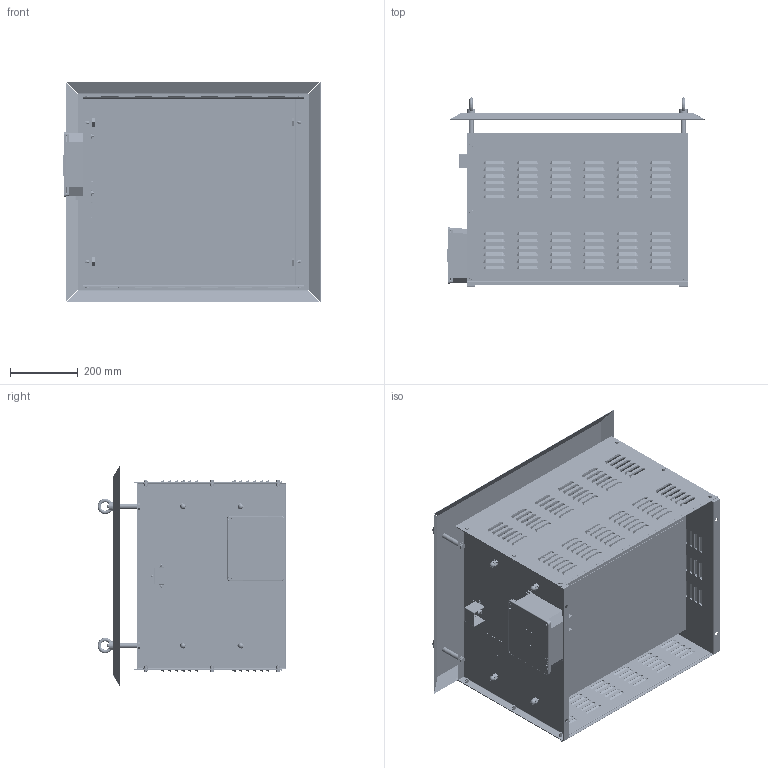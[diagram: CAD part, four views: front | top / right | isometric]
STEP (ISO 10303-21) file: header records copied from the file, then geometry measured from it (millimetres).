
FILE_DESCRIPTION(/* description */ (''),/* implementation_level */ '2;1');
FILE_NAME(/* name */ 'C:\_Vault\Dati\CATALOGO\RX\RX Catalogue New\RX 65 UL\RX 65s RMS 16 (A)-UL_Armatura_Esterna.stp',/* time_stamp */ '2022-03-23T09:22:31+01:00',/* author */ ('claudio'),/* organization */ ('Fairfild Srl'),/* preprocessor_version */ 'ST-DEVELOPER v18.1',/* originating_system */ 'Autodesk Inventor 2022',/* authorisation */ '');
FILE_SCHEMA (('AUTOMOTIVE_DESIGN { 1 0 10303 214 3 1 1 }'));
Products named in the file (1): RX 65s RMS 16 (A)-UL_Armatura_Esterna
Bounding box: 757.04 x 556.41 x 650 mm (x, y, z)
Volume: 52961388.3 mm3; surface area: 5056672.5 mm2
Topology: 1 solids, 53 shells, 12532 faces, 33017 edges, 20643 vertices
Faces by surface type: plane 8216, bspline 1893, cylinder 1872, cone 502, sphere 31, torus 18
Full cylindrical faces by diameter (mm): 1.9 x2, 3.2 x2, 3.242 x1, 4 x2, 4.2 x6, 4.3 x1, 4.5 x3, 5 x8, 5.3 x4, 5.5 x4, 6 x36, 6.4 x24, 8.2 x1, 8.376 x8, 9 x4, 10 x10, 10.5 x4, 11 x20, 12.5 x24, 14.5 x1, 15 x8, 16 x9, 21 x12, 25 x4
Entity records: 415434 total; most frequent: CARTESIAN_POINT 100692, ORIENTED_EDGE 65950, DIRECTION 55492, EDGE_CURVE 32975, LINE 24406, VECTOR 24406, VERTEX_POINT 20643, AXIS2_PLACEMENT_3D 15543
